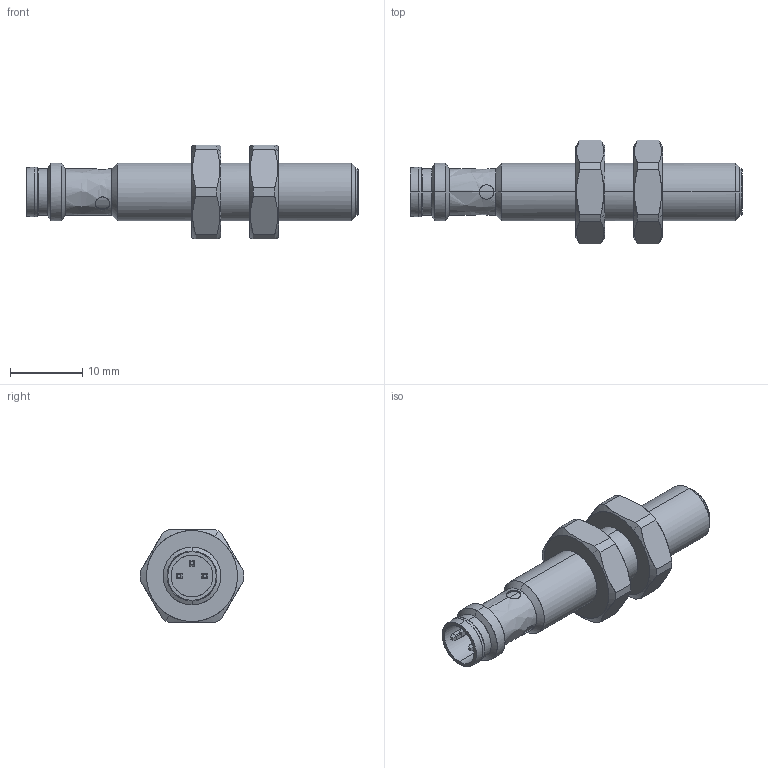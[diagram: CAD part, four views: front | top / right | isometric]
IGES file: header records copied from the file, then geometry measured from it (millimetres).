
Start section: Comment
Global section: file name: IFRM 08xxxA1_S35L.igs; native system:  By Spatial Corp.; preprocessor: XPlus GENERIC/IGES 3.0; author: Author; organization: Title; date: 20040805.075552; units: inch
Bounding box: 45.95 x 14.36 x 13 mm (x, y, z)
Surface area: 2238.5 mm2 (no closed solid volume)
Topology: 0 solids, 0 shells, 131 faces, 632 edges, 632 vertices
Faces by surface type: bspline 131
